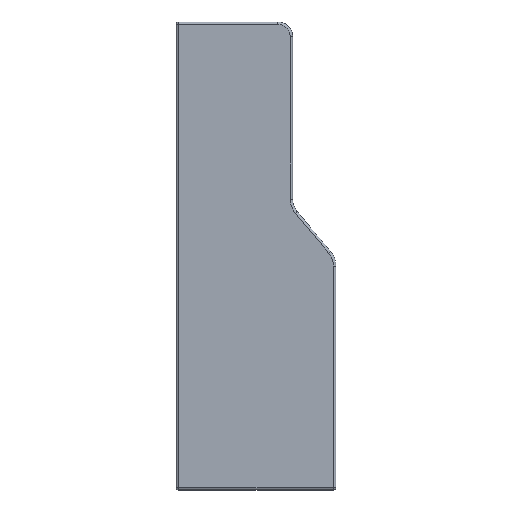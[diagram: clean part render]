
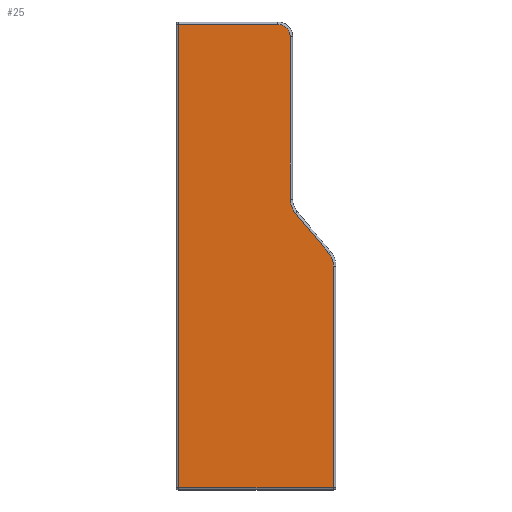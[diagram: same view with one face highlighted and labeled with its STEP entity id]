
A CAD part, front view. The second image highlights one B-rep face of the part: STEP entity #25.
In plain terms, the highlighted planar face has unit normal (0, -1, 0).
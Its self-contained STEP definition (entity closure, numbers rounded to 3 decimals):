
#25 = ADVANCED_FACE ( 'NONE', ( #142 ), #1121, .T. ) ;
#142 = FACE_OUTER_BOUND ( 'NONE', #1414, .T. ) ;
#226 = EDGE_CURVE ( 'NONE', #942, #958, #586, .T. ) ;
#270 = EDGE_CURVE ( 'NONE', #941, #908, #543, .T. ) ;
#273 = EDGE_CURVE ( 'NONE', #1006, #957, #538, .T. ) ;
#276 = AXIS2_PLACEMENT_3D ( 'NONE', #806, #804, #803 ) ;
#278 = AXIS2_PLACEMENT_3D ( 'NONE', #1118, #1112, #1111 ) ;
#281 = EDGE_CURVE ( 'NONE', #930, #944, #533, .T. ) ;
#286 = EDGE_CURVE ( 'NONE', #958, #1006, #525, .T. ) ;
#295 = EDGE_CURVE ( 'NONE', #957, #1001, #518, .T. ) ;
#304 = AXIS2_PLACEMENT_3D ( 'NONE', #743, #740, #739 ) ;
#305 = AXIS2_PLACEMENT_3D ( 'NONE', #899, #897, #896 ) ;
#312 = EDGE_CURVE ( 'NONE', #908, #930, #513, .T. ) ;
#321 = EDGE_CURVE ( 'NONE', #1001, #941, #490, .T. ) ;
#385 = EDGE_CURVE ( 'NONE', #944, #942, #433, .T. ) ;
#426 = VECTOR ( 'NONE', #630, 1000. ) ;
#433 = LINE ( 'NONE', #631, #426 ) ;
#490 = CIRCLE ( 'NONE', #304, 2.5 ) ;
#511 = VECTOR ( 'NONE', #754, 1000. ) ;
#513 = LINE ( 'NONE', #755, #511 ) ;
#518 = LINE ( 'NONE', #778, #546 ) ;
#524 = VECTOR ( 'NONE', #785, 1000. ) ;
#525 = LINE ( 'NONE', #786, #524 ) ;
#532 = VECTOR ( 'NONE', #793, 1000. ) ;
#533 = LINE ( 'NONE', #794, #532 ) ;
#538 = CIRCLE ( 'NONE', #276, 4.5 ) ;
#542 = VECTOR ( 'NONE', #811, 1000. ) ;
#543 = LINE ( 'NONE', #813, #542 ) ;
#546 = VECTOR ( 'NONE', #771, 1000. ) ;
#586 = CIRCLE ( 'NONE', #305, 4.1 ) ;
#630 = DIRECTION ( 'NONE',  ( 0., 0., 1. ) ) ;
#631 = CARTESIAN_POINT ( 'NONE',  ( 25.5, -5.2, 24.139 ) ) ;
#739 = DIRECTION ( 'NONE',  ( 1., 0., 0. ) ) ;
#740 = DIRECTION ( 'NONE',  ( 0., -1., 0. ) ) ;
#743 = CARTESIAN_POINT ( 'NONE',  ( 14.2, -5.2, 69.05 ) ) ;
#754 = DIRECTION ( 'NONE',  ( 0., 0., -1. ) ) ;
#755 = CARTESIAN_POINT ( 'NONE',  ( -6., -5.2, 24.139 ) ) ;
#771 = DIRECTION ( 'NONE',  ( 0., 0., 1. ) ) ;
#778 = CARTESIAN_POINT ( 'NONE',  ( 16.7, -5.2, 69.05 ) ) ;
#785 = DIRECTION ( 'NONE',  ( -0.643, 0., 0.766 ) ) ;
#786 = CARTESIAN_POINT ( 'NONE',  ( 17.753, -5.2, 33.157 ) ) ;
#793 = DIRECTION ( 'NONE',  ( 1., 0., 0. ) ) ;
#794 = CARTESIAN_POINT ( 'NONE',  ( -96., -5.2, -22.6 ) ) ;
#803 = DIRECTION ( 'NONE',  ( 1., 0., 0. ) ) ;
#804 = DIRECTION ( 'NONE',  ( 0., 1., 0. ) ) ;
#806 = CARTESIAN_POINT ( 'NONE',  ( 21.2, -5.2, 36.05 ) ) ;
#811 = DIRECTION ( 'NONE',  ( -1., 0., 0. ) ) ;
#813 = CARTESIAN_POINT ( 'NONE',  ( -96., -5.2, 71.55 ) ) ;
#896 = DIRECTION ( 'NONE',  ( 1., 0., 0. ) ) ;
#897 = DIRECTION ( 'NONE',  ( 0., -1., 0. ) ) ;
#899 = CARTESIAN_POINT ( 'NONE',  ( 21.4, -5.2, 22.432 ) ) ;
#908 = VERTEX_POINT ( 'NONE', #1178 ) ;
#930 = VERTEX_POINT ( 'NONE', #1187 ) ;
#941 = VERTEX_POINT ( 'NONE', #1194 ) ;
#942 = VERTEX_POINT ( 'NONE', #1195 ) ;
#944 = VERTEX_POINT ( 'NONE', #1196 ) ;
#957 = VERTEX_POINT ( 'NONE', #1203 ) ;
#958 = VERTEX_POINT ( 'NONE', #1204 ) ;
#1001 = VERTEX_POINT ( 'NONE', #1228 ) ;
#1006 = VERTEX_POINT ( 'NONE', #1230 ) ;
#1111 = DIRECTION ( 'NONE',  ( 1., 0., 0. ) ) ;
#1112 = DIRECTION ( 'NONE',  ( 0., -1., 0. ) ) ;
#1118 = CARTESIAN_POINT ( 'NONE',  ( -96., -5.2, 24.139 ) ) ;
#1121 = PLANE ( 'NONE',  #278 ) ;
#1178 = CARTESIAN_POINT ( 'NONE',  ( -6., -5.2, 71.55 ) ) ;
#1187 = CARTESIAN_POINT ( 'NONE',  ( -6., -5.2, -22.6 ) ) ;
#1194 = CARTESIAN_POINT ( 'NONE',  ( 14.2, -5.2, 71.55 ) ) ;
#1195 = CARTESIAN_POINT ( 'NONE',  ( 25.5, -5.2, 22.432 ) ) ;
#1196 = CARTESIAN_POINT ( 'NONE',  ( 25.5, -5.2, -22.6 ) ) ;
#1203 = CARTESIAN_POINT ( 'NONE',  ( 16.7, -5.2, 36.05 ) ) ;
#1204 = CARTESIAN_POINT ( 'NONE',  ( 24.541, -5.2, 25.068 ) ) ;
#1228 = CARTESIAN_POINT ( 'NONE',  ( 16.7, -5.2, 69.05 ) ) ;
#1230 = CARTESIAN_POINT ( 'NONE',  ( 17.753, -5.2, 33.157 ) ) ;
#1311 = ORIENTED_EDGE ( 'NONE', *, *, #286, .T. ) ;
#1312 = ORIENTED_EDGE ( 'NONE', *, *, #273, .T. ) ;
#1313 = ORIENTED_EDGE ( 'NONE', *, *, #295, .T. ) ;
#1314 = ORIENTED_EDGE ( 'NONE', *, *, #321, .T. ) ;
#1315 = ORIENTED_EDGE ( 'NONE', *, *, #270, .T. ) ;
#1316 = ORIENTED_EDGE ( 'NONE', *, *, #312, .T. ) ;
#1317 = ORIENTED_EDGE ( 'NONE', *, *, #281, .T. ) ;
#1318 = ORIENTED_EDGE ( 'NONE', *, *, #385, .T. ) ;
#1319 = ORIENTED_EDGE ( 'NONE', *, *, #226, .T. ) ;
#1414 = EDGE_LOOP ( 'NONE', ( #1311, #1312, #1313, #1314, #1315, #1316, #1317, #1318, #1319 ) ) ;
